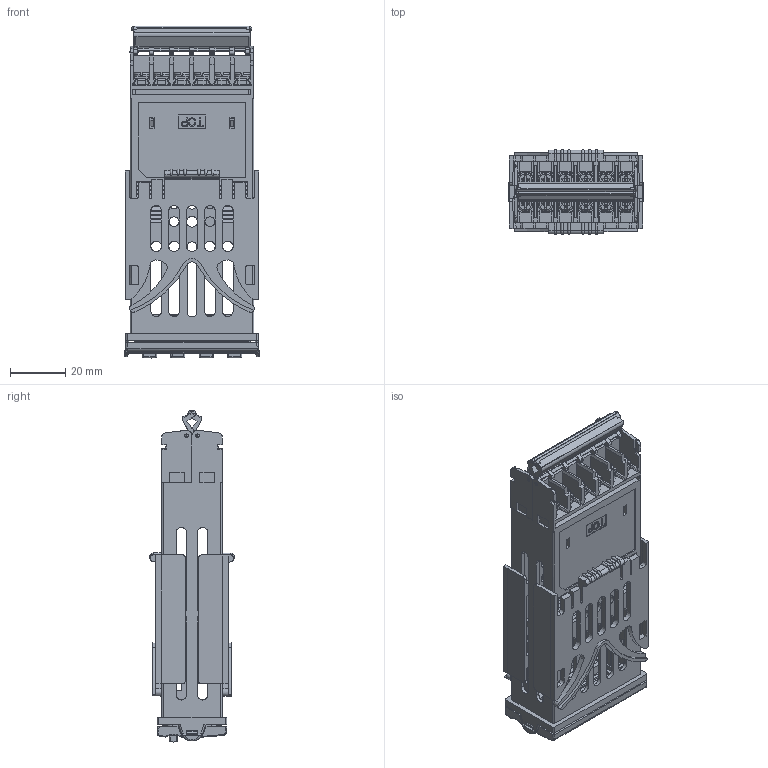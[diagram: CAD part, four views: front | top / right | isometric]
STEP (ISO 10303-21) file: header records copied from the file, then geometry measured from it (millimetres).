
FILE_DESCRIPTION((''),'2;1');
FILE_NAME('2132I_STEPFILE_IGES','2012-01-03T',('chrisloe'),(''),'PRO/ENGINEER BY PARAMETRIC TECHNOLOGY CORPORATION, 2010180','PRO/ENGINEER BY PARAMETRIC TECHNOLOGY CORPORATION, 2010180','');
FILE_SCHEMA(('CONFIG_CONTROL_DESIGN'));
Products named in the file (1): 2132I_STEPFILE_IGES
Bounding box: 49 x 30.8 x 120.52 mm (x, y, z)
Volume: 29509.6 mm3; surface area: 69332.3 mm2
Topology: 8 solids, 51 shells, 6446 faces, 17658 edges, 11264 vertices
Faces by surface type: plane 4634, cylinder 1307, cone 234, torus 183, bspline 86, sphere 2
Entity records: 213874 total; most frequent: CARTESIAN_POINT 53028, ORIENTED_EDGE 34702, DIRECTION 31117, EDGE_CURVE 17642, VECTOR 12777, LINE 12777, VERTEX_POINT 11264, AXIS2_PLACEMENT_3D 9170
